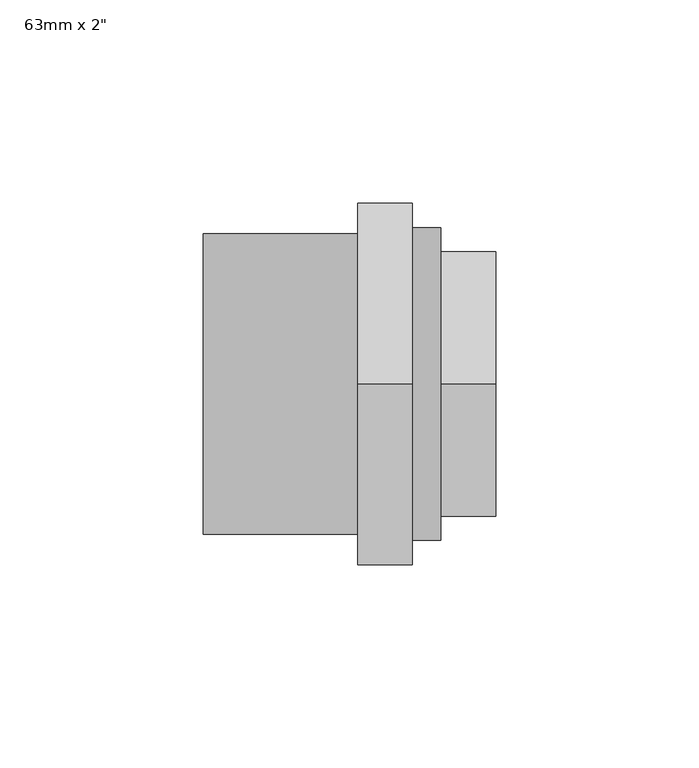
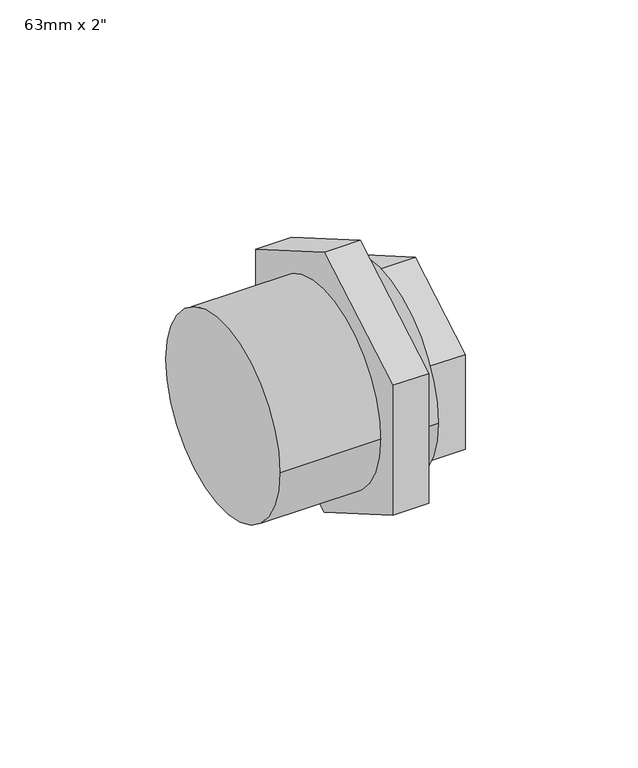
"""IFC4 building model written with IfcOpenShell, lengths in millimetres: pipe fitting geometry."""

from ifc_helpers import new_model, si_unit, point, frame, origin, origin_2d, place, context, project, spatial, circle_curve, trimmed, segment, composite_curve, outline, extrude, source, transform, mapped, element, save
from ifc_brep_helpers import plane_surface, cylinder_surface, advanced_brep


def pipe_fitting_3a19f61f(model_context):
    return source(origin(), model_context, "Body", "SolidModel", [
        advanced_brep(
        [(53.0, 0.0, 37.5277675), (53.0, -32.5, 18.7638837), (53.0, -32.5, -18.7638837), (53.0, 0.0, -37.5277675), (53.0, 32.5, -18.7638837), (53.0, 32.5, 18.7638837), (39.5, 32.5, 18.7638837), (39.5, 0.0, 37.5277675), (39.5, 32.5, -18.7638837), (39.5, 0.0, -37.5277675), (39.5, -32.5, -18.7638837), (39.5, -32.5, 18.7638837), (39.5, -38.5, 0.0), (39.5, 38.5, 0.0), (32.5, 38.5, 0.0), (32.5, -38.5, 0.0), (19.0, 0.0, 51.384174), (19.0, 44.5, 25.692087), (19.0, 44.5, -25.692087), (19.0, 0.0, -51.384174), (19.0, -44.5, -25.692087), (19.0, -44.5, 25.692087), (32.5, 0.0, 51.384174), (32.5, -44.5, 25.692087), (32.5, -44.5, -25.692087), (32.5, 0.0, -51.384174), (32.5, 44.5, -25.692087), (32.5, 44.5, 25.692087)],
        [
            (0, 1),
            (1, 2),
            (2, 3),
            (3, 4),
            (4, 5),
            (5, 0),
            (5, 6),
            (6, 7),
            (7, 0),
            (4, 8),
            (8, 6),
            (3, 9),
            (9, 8),
            (2, 10),
            (10, 9),
            (1, 11),
            (11, 10),
            (7, 11),
            (12, 13, circle_curve(frame((39.5, 0.0, 0.0), z_axis=(1.0, 0.0, 0.0), x_axis=(0.0, 1.0, 0.0)), 38.5)),
            (13, 12, circle_curve(frame((39.5, 0.0, 0.0), z_axis=(1.0, 0.0, 0.0), x_axis=(0.0, 1.0, 0.0)), 38.5)),
            (13, 14),
            (14, 15, circle_curve(frame((32.5, 0.0, 0.0), z_axis=(1.0, 0.0, 0.0), x_axis=(0.0, 1.0, 0.0)), 38.5)),
            (15, 12),
            (15, 14, circle_curve(frame((32.5, 0.0, 0.0), z_axis=(1.0, 0.0, 0.0), x_axis=(0.0, 1.0, 0.0)), 38.5)),
            (16, 17),
            (17, 18),
            (18, 19),
            (19, 20),
            (20, 21),
            (21, 16),
            (22, 23),
            (23, 24),
            (24, 25),
            (25, 26),
            (26, 27),
            (27, 22),
            (16, 22),
            (27, 17),
            (26, 18),
            (25, 19),
            (24, 20),
            (23, 21),
        ],
        [
            plane_surface(frame((53.0, 0.0, 0.0), z_axis=(1.0, 0.0, 0.0), x_axis=(0.0, 0.0, 1.0))),
            plane_surface(frame((39.5, 0.0, 37.5277675), z_axis=(0.0, 0.49999999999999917, 0.8660254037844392), x_axis=(1.0, 0.0, 0.0))),
            plane_surface(frame((39.5, 32.5, 18.7638837), z_axis=(0.0, 1.0, 0.0), x_axis=(1.0, 0.0, 0.0))),
            plane_surface(frame((39.5, 32.5, -18.7638837), z_axis=(0.0, 0.4999999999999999, -0.8660254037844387), x_axis=(1.0, 0.0, 0.0))),
            plane_surface(frame((39.5, 0.0, -37.5277675), z_axis=(0.0, -0.5000000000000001, -0.8660254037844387), x_axis=(1.0, 0.0, 0.0))),
            plane_surface(frame((39.5, -32.5, -18.7638837), z_axis=(0.0, -1.0, 0.0), x_axis=(1.0, 0.0, 0.0))),
            plane_surface(frame((39.5, -32.5, 18.7638837), z_axis=(0.0, -0.5000000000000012, 0.866025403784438), x_axis=(1.0, 0.0, 0.0))),
            plane_surface(frame((39.5, 0.0, 0.0), z_axis=(1.0, 0.0, 0.0), x_axis=(0.0, 0.0, 1.0))),
            cylinder_surface(frame((32.5, 0.0, 0.0), z_axis=(-1.0, 0.0, 0.0), x_axis=(0.0, 1.0, 0.0)), 38.5),
            plane_surface(frame((19.0, 0.0, 0.0), z_axis=(-1.0, 0.0, 0.0), x_axis=(0.0, 0.0, 1.0))),
            plane_surface(frame((32.5, 0.0, 0.0), z_axis=(1.0, 0.0, 0.0), x_axis=(0.0, 0.0, 1.0))),
            plane_surface(frame((19.0, 0.0, 51.384174), z_axis=(0.0, 0.49999999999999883, 0.8660254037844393), x_axis=(1.0, 0.0, 0.0))),
            plane_surface(frame((19.0, 44.5, 25.692087), z_axis=(0.0, 1.0, 0.0), x_axis=(1.0, 0.0, 0.0))),
            plane_surface(frame((19.0, 44.5, -25.692087), z_axis=(0.0, 0.4999999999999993, -0.866025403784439), x_axis=(1.0, 0.0, 0.0))),
            plane_surface(frame((19.0, 0.0, -51.384174), z_axis=(0.0, -0.49999999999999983, -0.8660254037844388), x_axis=(1.0, 0.0, 0.0))),
            plane_surface(frame((19.0, -44.5, -25.692087), z_axis=(0.0, -1.0, 0.0), x_axis=(1.0, 0.0, 0.0))),
            plane_surface(frame((19.0, -44.5, 25.692087), z_axis=(0.0, -0.49999999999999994, 0.8660254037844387), x_axis=(1.0, 0.0, 0.0))),
        ],
        [
            (0, [[1, 2, 3, 4, 5, 6]]),
            (1, [[-6, 7, 8, 9]]),
            (2, [[-5, 10, 11, -7]]),
            (3, [[-4, 12, 13, -10]]),
            (4, [[-3, 14, 15, -12]]),
            (5, [[-2, 16, 17, -14]]),
            (6, [[-1, -9, 18, -16]]),
            (7, [[19, 20], [-8, -11, -13, -15, -17, -18]]),
            (8, [[-20, 21, 22, 23]]),
            (8, [[-19, -23, 24, -21]]),
            (9, [[25, 26, 27, 28, 29, 30]]),
            (10, [[31, 32, 33, 34, 35, 36], [-22, -24]]),
            (11, [[-25, 37, -36, 38]]),
            (12, [[-26, -38, -35, 39]]),
            (13, [[-27, -39, -34, 40]]),
            (14, [[-28, -40, -33, 41]]),
            (15, [[-29, -41, -32, 42]]),
            (16, [[-30, -42, -31, -37]]),
        ],
    ),
        extrude(outline(composite_curve([segment(trimmed(circle_curve(origin_2d(), 37.0), [point((-37.0, 0.0))], [point((37.0, 0.0))], False, "CARTESIAN"), True, "CONTINUOUS"), segment(trimmed(circle_curve(origin_2d(), 37.0), [point((37.0, 0.0))], [point((-37.0, 0.0))], False, "CARTESIAN"), True, "CONTINUOUS")], self_intersect=False)), frame((-19.0, 0.0, 0.0), z_axis=(1.0, 0.0, 0.0), x_axis=(0.0, 1.0, 0.0)), (0.0, 0.0, 1.0), 38.0),
    ])


if __name__ == "__main__":
    model = new_model("IFC4")
    model_context = context("Model", 3, world=origin())
    ifc_project = project(units=[si_unit("LENGTHUNIT", "METRE", prefix="MILLI")], contexts=[model_context])
    site = spatial("IfcSite", under=ifc_project)
    building = spatial("IfcBuilding", under=site)
    placement = place(None, origin())
    pipe_fitting_shape = pipe_fitting_3a19f61f(model_context)
    element("IfcPipeFitting", 1, ObjectType="PipeFitting_HTA_CPVC_3PieceUnions_(CPVC-Brass) : 63mm x 2\"", at=placement, inside=building, context=model_context, shape_type="MappedRepresentation", body=[
        mapped(pipe_fitting_shape, transform((0.0, 0.0, 0.0), x_axis=(1.0, 0.0, 0.0), y_axis=(0.0, 1.0, 0.0), z_axis=(0.0, 0.0, 1.0))),
    ])
    save(model, "model.ifc")
